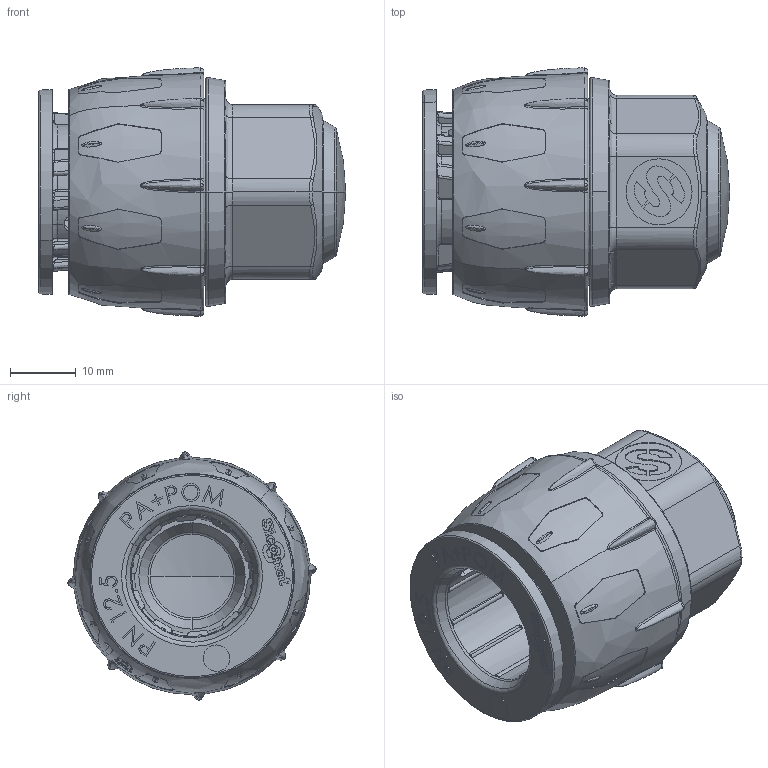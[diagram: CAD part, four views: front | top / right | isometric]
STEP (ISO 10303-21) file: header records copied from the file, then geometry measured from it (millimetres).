
FILE_DESCRIPTION (( 'STEP AP203' ), '1' );
FILE_NAME ('R221.018.000.STEP', '2024-08-01T11:51:33', ( '' ), ( '' ), 'SwSTEP 2.0', 'SolidWorks 2021', '' );
FILE_SCHEMA (( 'CONFIG_CONTROL_DESIGN' ));
Length unit declared in the file: millimetre
Products named in the file (7): R209.018.001; R221.018.000-L; GUARNIZIONI OR_OR 17,5x2,5; R209.018.003; R216.018.000; R209.018.002; R221.018.000
Assembly tree (6 placements, depth 2):
  R221.018.000
    R221.018.000-L
    R209.018.002
    R216.018.000
    R209.018.003
    R209.018.001
    GUARNIZIONI OR_OR 17,5x2,5
Bounding box: 46.6 x 37.64 x 37.64 mm (x, y, z)
Volume: 21061.4 mm3; surface area: 19352.8 mm2
Topology: 6 solids, 6 shells, 1356 faces, 3384 edges, 2110 vertices
Faces by surface type: bspline 451, plane 383, cylinder 303, cone 96, torus 79, sphere 44
Entity records: 76038 total; most frequent: CARTESIAN_POINT 46830, ORIENTED_EDGE 6720, DIRECTION 4682, EDGE_CURVE 3360, VERTEX_POINT 2110, AXIS2_PLACEMENT_3D 1782, EDGE_LOOP 1460, ADVANCED_FACE 1356
